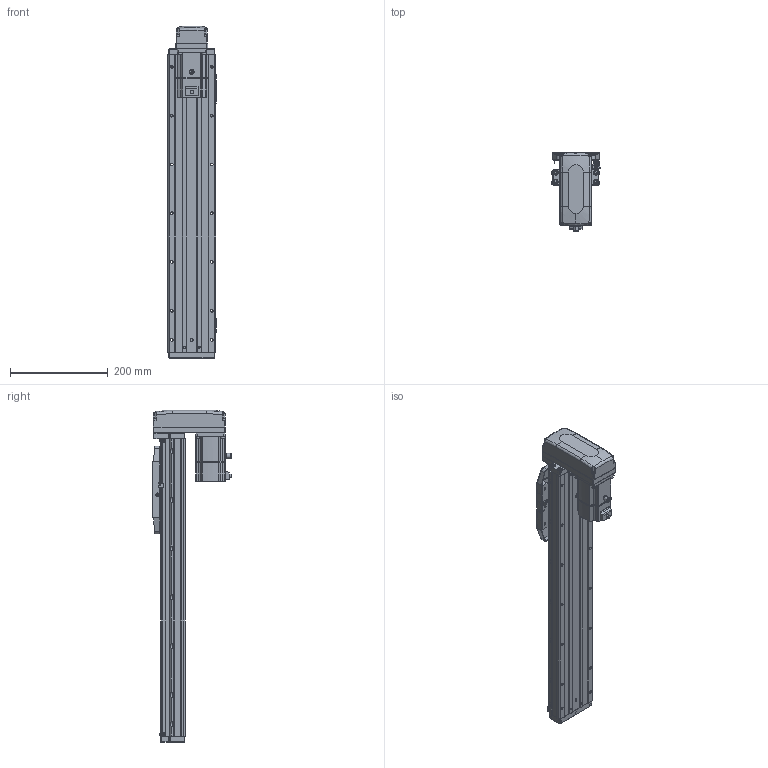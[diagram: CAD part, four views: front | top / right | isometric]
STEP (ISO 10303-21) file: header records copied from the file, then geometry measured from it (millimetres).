
FILE_DESCRIPTION (( 'STEP AP203' ), '1' );
FILE_NAME ('CTHA100-400-BM-M20-C4L.step', '2022-07-06T09:03:55', ( '微软用户' ), ( '微软中国' ), 'SwSTEP 2.0', 'SolidWorks 2020', '' );
FILE_SCHEMA (( 'CONFIG_CONTROL_DESIGN' ));
Length unit declared in the file: millimetre
Products named in the file (19): CTHA86-030; GBT 70.1-M3℅6; KTHA100-001_610; GBT 70.3-M3℅6; GBT70.1 M5℅16; KTHA100-004; CTHA86-015-1_CTHA86-015-2; CTHA60-016; KTHA100-005; CTHA86-033; EE_SX911P_R; _X2_4E0983F1_X0_200W_1; GB¨uT 70.2-M3¡Á5_M3¡Á6; CTHA100-400-BM-M20-C4L; CTHA60-017; CTHA100-002; CTHA60-021; CTHA100-031; GBT77-2000 M3×3
Assembly tree (64 placements, depth 2):
  CTHA100-400-BM-M20-C4L
    KTHA100-001_610
    KTHA100-004
    KTHA100-005
    GB¨uT 70.2-M3¡Á5_M3¡Á6  x10
    EE_SX911P_R  x3
    CTHA60-017  x3
    CTHA60-021  x2
    GBT77-2000 M3×3  x6
    GBT 70.1-M3℅6  x10
    GBT70.1 M5℅16  x14
    CTHA60-016  x2
    _X2_4E0983F1_X0_200W_1
    CTHA100-002
    CTHA100-031
    CTHA86-030  x2
    GBT 70.3-M3℅6  x4
    CTHA86-015-1_CTHA86-015-2
    CTHA86-033
Bounding box: 98.82 x 163.2 x 681 mm (x, y, z)
Volume: 3081035 mm3; surface area: 534453 mm2
Topology: 66 solids, 66 shells, 2649 faces, 6359 edges, 3940 vertices
Faces by surface type: plane 1380, cylinder 695, cone 351, torus 124, bspline 75, sphere 24
Entity records: 45346 total; most frequent: CARTESIAN_POINT 8923, DIRECTION 6984, ORIENTED_EDGE 6834, EDGE_CURVE 3417, AXIS2_PLACEMENT_3D 2373, VECTOR 2238, LINE 2238, VERTEX_POINT 2160
